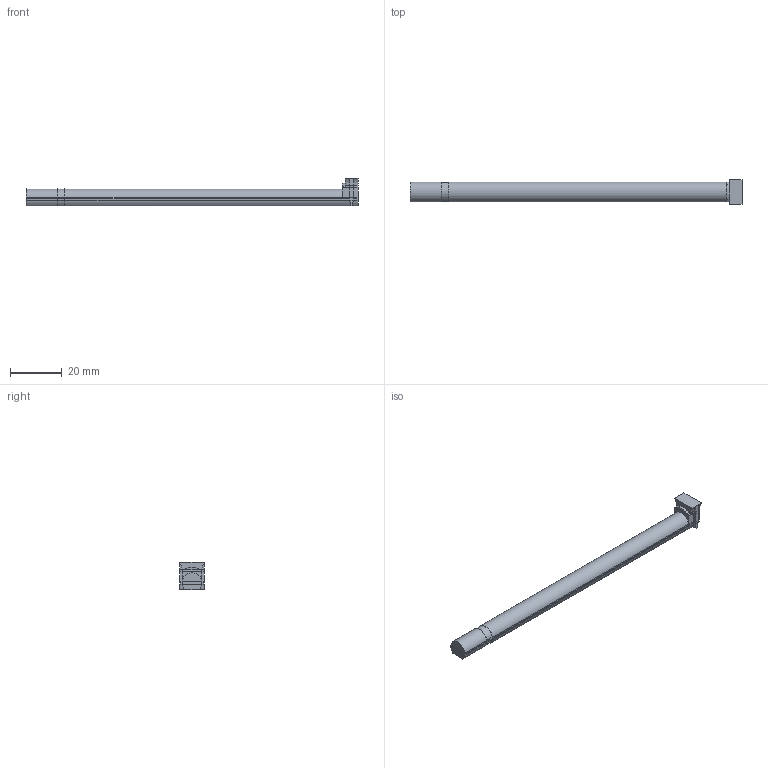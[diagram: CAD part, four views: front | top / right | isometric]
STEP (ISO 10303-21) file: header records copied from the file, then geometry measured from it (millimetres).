
FILE_DESCRIPTION (( 'STEP AP214' ), '1' );
FILE_NAME ('Axle_v3.2.STEP', '2019-04-18T07:05:04', ( '' ), ( '' ), 'SwSTEP 2.0', 'SolidWorks 2018', '' );
FILE_SCHEMA (( 'AUTOMOTIVE_DESIGN' ));
Length unit declared in the file: millimetre
Products named in the file (1): Axle_v3.2
Bounding box: 128 x 9.4 x 10.72 mm (x, y, z)
Volume: 5656.5 mm3; surface area: 5160.1 mm2
Topology: 3 solids, 3 shells, 131 faces, 362 edges, 241 vertices
Faces by surface type: plane 98, cylinder 33
Entity records: 4207 total; most frequent: CARTESIAN_POINT 759, ORIENTED_EDGE 724, DIRECTION 677, EDGE_CURVE 362, VECTOR 295, LINE 295, VERTEX_POINT 241, AXIS2_PLACEMENT_3D 191
